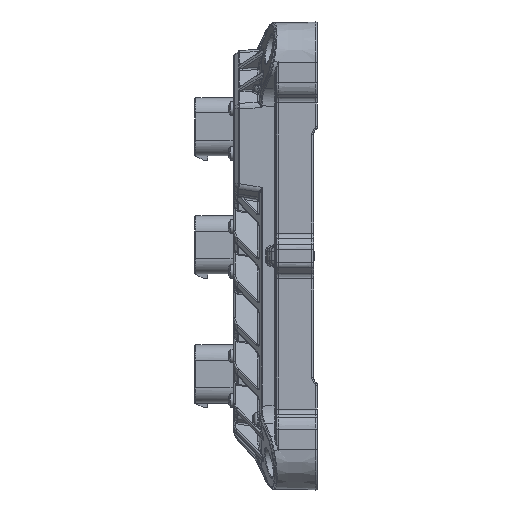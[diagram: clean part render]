
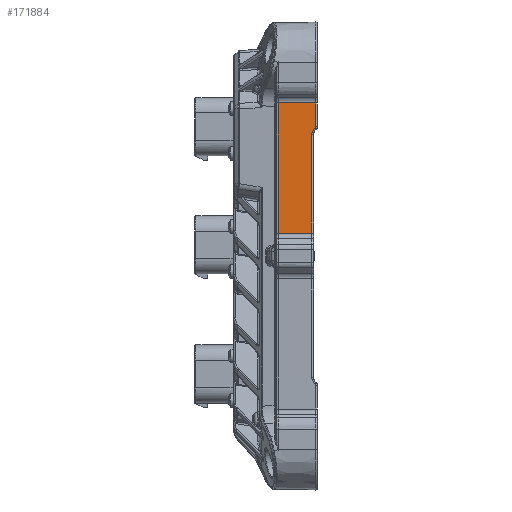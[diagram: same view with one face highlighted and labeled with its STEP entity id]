
A CAD part, left-side view. The second image highlights one B-rep face of the part: STEP entity #171884.
In plain terms, the highlighted planar face has unit normal (-1, 0.018, 0).
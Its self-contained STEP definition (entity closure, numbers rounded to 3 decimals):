
#159 = EDGE_CURVE ( 'NONE', #82318, #99061, #105617, .T. ) ;
#7837 = EDGE_CURVE ( 'NONE', #104578, #141568, #147208, .T. ) ;
#8101 = DIRECTION ( 'NONE',  ( 0.017, 1., 0. ) ) ;
#10358 = ORIENTED_EDGE ( 'NONE', *, *, #99510, .T. ) ;
#14930 = CARTESIAN_POINT ( 'NONE',  ( -115.966, 0.96, 50.792 ) ) ;
#16941 = DIRECTION ( 'NONE',  ( 0., 0., 1. ) ) ;
#18053 = LINE ( 'NONE', #152012, #157462 ) ;
#24597 = ORIENTED_EDGE ( 'NONE', *, *, #79881, .T. ) ;
#24916 = EDGE_LOOP ( 'NONE', ( #169101, #160478, #10358, #37123, #120515, #145726, #24597, #73482 ) ) ;
#26602 = DIRECTION ( 'NONE',  ( -0.012, -0.707, 0.707 ) ) ;
#27161 = CARTESIAN_POINT ( 'NONE',  ( -115.988, -0.288, 52.475 ) ) ;
#37123 = ORIENTED_EDGE ( 'NONE', *, *, #159, .T. ) ;
#38827 = VECTOR ( 'NONE', #26602, 1000. ) ;
#42438 = CARTESIAN_POINT ( 'NONE',  ( -115.974, 0.495, 51.258 ) ) ;
#48082 = CARTESIAN_POINT ( 'NONE',  ( -115.974, 0.495, 51.258 ) ) ;
#49424 = PLANE ( 'NONE',  #75631 ) ;
#65877 = CARTESIAN_POINT ( 'NONE',  ( -115.721, 14.961, 62.186 ) ) ;
#68820 = CARTESIAN_POINT ( 'NONE',  ( -115.982, 0.02, 51.732 ) ) ;
#71898 = VERTEX_POINT ( 'NONE', #165237 ) ;
#72865 = VECTOR ( 'NONE', #16941, 1000. ) ;
#73482 = ORIENTED_EDGE ( 'NONE', *, *, #7837, .T. ) ;
#75631 = AXIS2_PLACEMENT_3D ( 'NONE', #157593, #159340, #103462 ) ;
#79881 = EDGE_CURVE ( 'NONE', #161580, #104578, #99258, .T. ) ;
#80975 = CARTESIAN_POINT ( 'NONE',  ( -115.982, 0.02, 51.732 ) ) ;
#82318 = VERTEX_POINT ( 'NONE', #65877 ) ;
#85232 = LINE ( 'NONE', #138436, #72865 ) ;
#86959 = CARTESIAN_POINT ( 'NONE',  ( -115.961, 1.212, 49.525 ) ) ;
#90194 =( BOUNDED_CURVE ( )  B_SPLINE_CURVE ( 3, ( #68820, #96279, #164570, #27161 ),
 .UNSPECIFIED., .F., .T. ) 
 B_SPLINE_CURVE_WITH_KNOTS ( ( 4, 4 ),
 ( 2.356, 3.142 ),
 .UNSPECIFIED. ) 
 CURVE ( )  GEOMETRIC_REPRESENTATION_ITEM ( )  RATIONAL_B_SPLINE_CURVE ( ( 1., 0.949, 0.949, 1. ) ) 
 REPRESENTATION_ITEM ( '' )  );
#91582 = VERTEX_POINT ( 'NONE', #95502 ) ;
#92193 = VERTEX_POINT ( 'NONE', #104005 ) ;
#94841 = CARTESIAN_POINT ( 'NONE',  ( -115.61, 21.343, 30.409 ) ) ;
#95502 = CARTESIAN_POINT ( 'NONE',  ( -115.988, -0.288, 62.186 ) ) ;
#96279 = CARTESIAN_POINT ( 'NONE',  ( -115.986, -0.18, 51.932 ) ) ;
#97398 = CARTESIAN_POINT ( 'NONE',  ( -115.961, 1.212, 49.525 ) ) ;
#99061 = VERTEX_POINT ( 'NONE', #134175 ) ;
#99258 =( BOUNDED_CURVE ( )  B_SPLINE_CURVE ( 3, ( #97398, #136426, #14930, #42438 ),
 .UNSPECIFIED., .F., .T. ) 
 B_SPLINE_CURVE_WITH_KNOTS ( ( 4, 4 ),
 ( 0., 0.785 ),
 .UNSPECIFIED. ) 
 CURVE ( )  GEOMETRIC_REPRESENTATION_ITEM ( )  RATIONAL_B_SPLINE_CURVE ( ( 1., 0.949, 0.949, 1. ) ) 
 REPRESENTATION_ITEM ( '' )  );
#99510 = EDGE_CURVE ( 'NONE', #91582, #82318, #172163, .T. ) ;
#101997 = DIRECTION ( 'NONE',  ( -0.017, -1., 0. ) ) ;
#103462 = DIRECTION ( 'NONE',  ( 0., 0., 1. ) ) ;
#104005 = CARTESIAN_POINT ( 'NONE',  ( -115.961, 1.212, 9.303 ) ) ;
#104578 = VERTEX_POINT ( 'NONE', #48082 ) ;
#105236 = FACE_OUTER_BOUND ( 'NONE', #24916, .T. ) ;
#105617 = LINE ( 'NONE', #146425, #165145 ) ;
#106796 = EDGE_CURVE ( 'NONE', #99061, #92193, #127769, .T. ) ;
#107983 = VECTOR ( 'NONE', #8101, 1000. ) ;
#113586 = CARTESIAN_POINT ( 'NONE',  ( -116., -1., 9.303 ) ) ;
#120339 = VECTOR ( 'NONE', #101997, 1000. ) ;
#120515 = ORIENTED_EDGE ( 'NONE', *, *, #106796, .T. ) ;
#127769 = LINE ( 'NONE', #113586, #120339 ) ;
#132244 = DIRECTION ( 'NONE',  ( 0., 0., -1. ) ) ;
#132981 = EDGE_CURVE ( 'NONE', #92193, #161580, #18053, .T. ) ;
#134175 = CARTESIAN_POINT ( 'NONE',  ( -115.721, 14.961, 9.303 ) ) ;
#136426 = CARTESIAN_POINT ( 'NONE',  ( -115.961, 1.212, 50.184 ) ) ;
#138436 = CARTESIAN_POINT ( 'NONE',  ( -115.988, -0.288, 8.06 ) ) ;
#141568 = VERTEX_POINT ( 'NONE', #80975 ) ;
#145726 = ORIENTED_EDGE ( 'NONE', *, *, #132981, .T. ) ;
#146025 = EDGE_CURVE ( 'NONE', #141568, #71898, #90194, .T. ) ;
#146425 = CARTESIAN_POINT ( 'NONE',  ( -115.721, 14.961, 8.06 ) ) ;
#147208 = LINE ( 'NONE', #94841, #38827 ) ;
#152012 = CARTESIAN_POINT ( 'NONE',  ( -115.961, 1.212, 8.06 ) ) ;
#157087 = CARTESIAN_POINT ( 'NONE',  ( -116., -1., 62.186 ) ) ;
#157462 = VECTOR ( 'NONE', #163558, 1000. ) ;
#157593 = CARTESIAN_POINT ( 'NONE',  ( -116., -1., 8.06 ) ) ;
#159340 = DIRECTION ( 'NONE',  ( -1., 0.017, 0. ) ) ;
#160478 = ORIENTED_EDGE ( 'NONE', *, *, #169437, .T. ) ;
#161580 = VERTEX_POINT ( 'NONE', #86959 ) ;
#163558 = DIRECTION ( 'NONE',  ( 0., 0., 1. ) ) ;
#164570 = CARTESIAN_POINT ( 'NONE',  ( -115.988, -0.288, 52.193 ) ) ;
#165145 = VECTOR ( 'NONE', #132244, 1000. ) ;
#165237 = CARTESIAN_POINT ( 'NONE',  ( -115.988, -0.288, 52.475 ) ) ;
#169101 = ORIENTED_EDGE ( 'NONE', *, *, #146025, .T. ) ;
#169437 = EDGE_CURVE ( 'NONE', #71898, #91582, #85232, .T. ) ;
#171884 = ADVANCED_FACE ( 'NONE', ( #105236 ), #49424, .T. ) ;
#172163 = LINE ( 'NONE', #157087, #107983 ) ;
